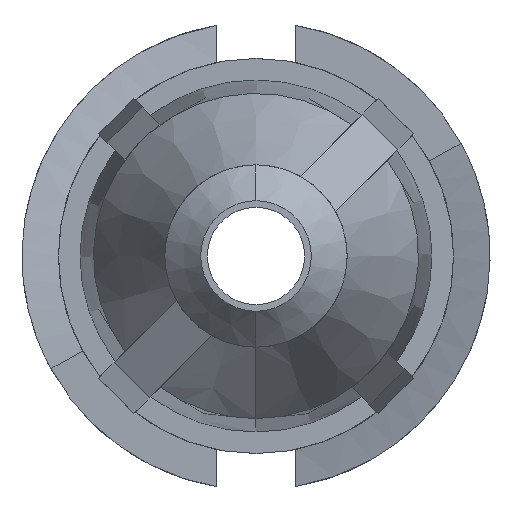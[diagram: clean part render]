
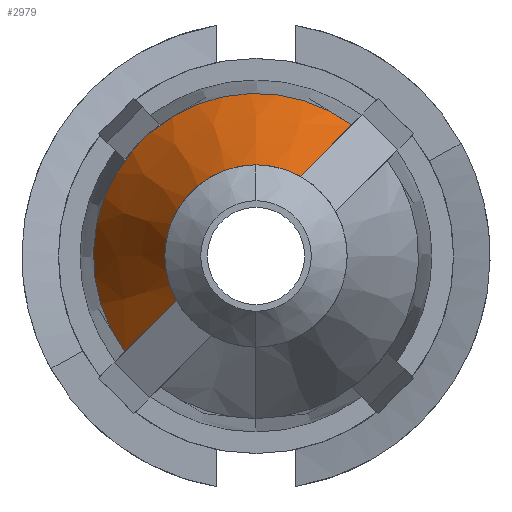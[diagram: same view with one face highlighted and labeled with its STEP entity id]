
A CAD part, left-side view. The second image highlights one B-rep face of the part: STEP entity #2979.
In plain terms, the highlighted conical face has half-angle 23.742 degrees and reference radius 2.674 mm.
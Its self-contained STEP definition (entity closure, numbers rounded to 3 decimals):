
#50 = B_SPLINE_CURVE_WITH_KNOTS ( 'NONE', 3,
 ( #1916, #2897, #2675, #1193 ),
 .UNSPECIFIED., .F., .F.,
 ( 4, 4 ),
 ( 0., 0.003 ),
 .UNSPECIFIED. ) ;
#52 = CARTESIAN_POINT ( 'NONE',  ( -54.573, -2.516, 30.682 ) ) ;
#112 = CARTESIAN_POINT ( 'NONE',  ( -57.243, 0.373, 27.793 ) ) ;
#204 = CARTESIAN_POINT ( 'NONE',  ( -54.573, -2.516, 30.682 ) ) ;
#220 = ORIENTED_EDGE ( 'NONE', *, *, #2696, .T. ) ;
#291 = CIRCLE ( 'NONE', #552, 2.674 ) ;
#356 = EDGE_CURVE ( 'NONE', #2213, #1672, #291, .T. ) ;
#358 = CIRCLE ( 'NONE', #2099, 1.5 ) ;
#451 = EDGE_CURVE ( 'NONE', #2213, #1886, #50, .T. ) ;
#472 = CARTESIAN_POINT ( 'NONE',  ( -57.243, -1.667, 29.834 ) ) ;
#520 = EDGE_LOOP ( 'NONE', ( #573, #1174, #3019, #220, #1481 ) ) ;
#536 = CARTESIAN_POINT ( 'NONE',  ( -54.573, 1.222, 26.945 ) ) ;
#552 = AXIS2_PLACEMENT_3D ( 'NONE', #2084, #628, #1810 ) ;
#573 = ORIENTED_EDGE ( 'NONE', *, *, #2371, .F. ) ;
#628 = DIRECTION ( 'NONE',  ( 1., 0., 0. ) ) ;
#659 = VERTEX_POINT ( 'NONE', #472 ) ;
#784 = CONICAL_SURFACE ( 'NONE', #2470, 2.674, 0.414 ) ;
#995 = CARTESIAN_POINT ( 'NONE',  ( -57.243, -0.937, 28.524 ) ) ;
#1145 = CIRCLE ( 'NONE', #1355, 1.5 ) ;
#1174 = ORIENTED_EDGE ( 'NONE', *, *, #356, .F. ) ;
#1193 = CARTESIAN_POINT ( 'NONE',  ( -57.243, 0.373, 27.793 ) ) ;
#1234 = CARTESIAN_POINT ( 'NONE',  ( -57.243, -0.937, 28.524 ) ) ;
#1355 = AXIS2_PLACEMENT_3D ( 'NONE', #995, #1927, #2913 ) ;
#1435 = FACE_OUTER_BOUND ( 'NONE', #520, .T. ) ;
#1470 = DIRECTION ( 'NONE',  ( 0., 0., -1. ) ) ;
#1481 = ORIENTED_EDGE ( 'NONE', *, *, #2569, .T. ) ;
#1672 = VERTEX_POINT ( 'NONE', #204 ) ;
#1810 = DIRECTION ( 'NONE',  ( 0., 0., -1. ) ) ;
#1886 = VERTEX_POINT ( 'NONE', #112 ) ;
#1916 = CARTESIAN_POINT ( 'NONE',  ( -54.573, 1.222, 26.945 ) ) ;
#1927 = DIRECTION ( 'NONE',  ( 1., 0., 0. ) ) ;
#1991 = CARTESIAN_POINT ( 'NONE',  ( -57.243, -1.667, 29.834 ) ) ;
#2010 = CARTESIAN_POINT ( 'NONE',  ( -57.243, -0.937, 30.024 ) ) ;
#2052 = B_SPLINE_CURVE_WITH_KNOTS ( 'NONE', 3,
 ( #52, #2476, #2713, #1991 ),
 .UNSPECIFIED., .F., .F.,
 ( 4, 4 ),
 ( 0., 0.003 ),
 .UNSPECIFIED. ) ;
#2084 = CARTESIAN_POINT ( 'NONE',  ( -54.573, -0.937, 28.524 ) ) ;
#2099 = AXIS2_PLACEMENT_3D ( 'NONE', #1234, #3095, #1470 ) ;
#2102 = DIRECTION ( 'NONE',  ( 1., 0., 0. ) ) ;
#2213 = VERTEX_POINT ( 'NONE', #536 ) ;
#2371 = EDGE_CURVE ( 'NONE', #1672, #659, #2052, .T. ) ;
#2470 = AXIS2_PLACEMENT_3D ( 'NONE', #3105, #2102, #2841 ) ;
#2476 = CARTESIAN_POINT ( 'NONE',  ( -55.464, -2.235, 30.402 ) ) ;
#2569 = EDGE_CURVE ( 'NONE', #3090, #659, #1145, .T. ) ;
#2675 = CARTESIAN_POINT ( 'NONE',  ( -56.356, 0.66, 27.506 ) ) ;
#2696 = EDGE_CURVE ( 'NONE', #1886, #3090, #358, .T. ) ;
#2713 = CARTESIAN_POINT ( 'NONE',  ( -56.356, -1.954, 30.121 ) ) ;
#2841 = DIRECTION ( 'NONE',  ( 0., 0., -1. ) ) ;
#2897 = CARTESIAN_POINT ( 'NONE',  ( -55.464, 0.941, 27.225 ) ) ;
#2913 = DIRECTION ( 'NONE',  ( 0., 0., -1. ) ) ;
#2979 = ADVANCED_FACE ( 'NONE', ( #1435 ), #784, .T. ) ;
#3019 = ORIENTED_EDGE ( 'NONE', *, *, #451, .T. ) ;
#3090 = VERTEX_POINT ( 'NONE', #2010 ) ;
#3095 = DIRECTION ( 'NONE',  ( 1., 0., 0. ) ) ;
#3105 = CARTESIAN_POINT ( 'NONE',  ( -54.573, -0.937, 28.524 ) ) ;
